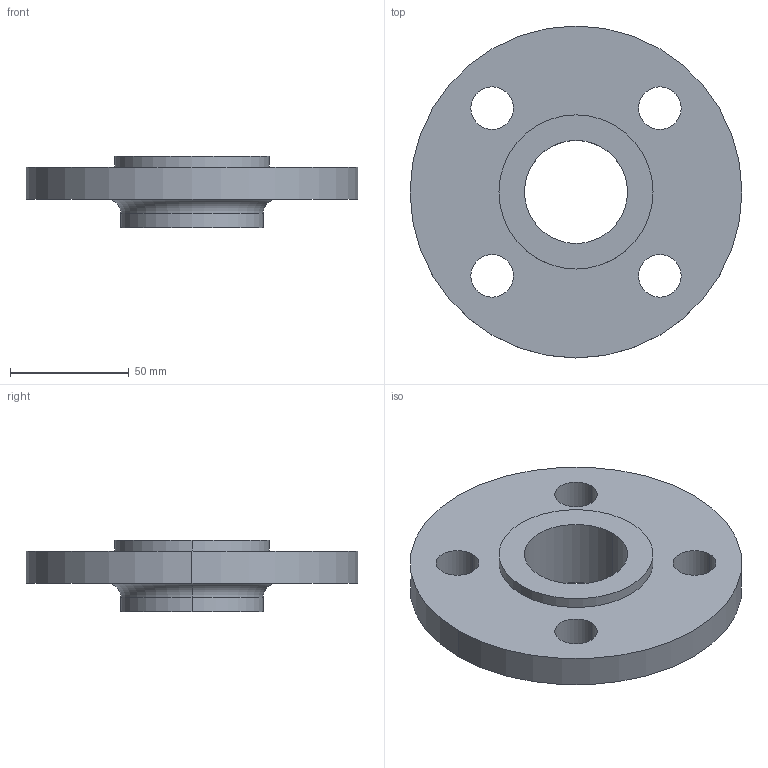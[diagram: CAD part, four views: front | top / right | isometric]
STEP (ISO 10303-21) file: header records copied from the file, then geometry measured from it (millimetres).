
FILE_DESCRIPTION (( 'STEP AP214' ), '1' );
FILE_NAME ('PN40 DN32 Type 12 - Type E Face.STEP', '2018-12-29T23:56:57', ( '' ), ( '' ), 'SwSTEP 2.0', 'SolidWorks 2019', '' );
FILE_SCHEMA (( 'AUTOMOTIVE_DESIGN' ));
Length unit declared in the file: millimetre
Products named in the file (1): PN40 DN32 Type 12 - Type E Face
Bounding box: 140 x 140 x 30 mm (x, y, z)
Volume: 199872.8 mm3; surface area: 41582 mm2
Topology: 1 solids, 1 shells, 22 faces, 52 edges, 34 vertices
Faces by surface type: cylinder 16, plane 4, torus 2
Entity records: 710 total; most frequent: DIRECTION 134, CARTESIAN_POINT 109, ORIENTED_EDGE 104, AXIS2_PLACEMENT_3D 59, EDGE_CURVE 52, CIRCLE 36, VERTEX_POINT 34, EDGE_LOOP 34
